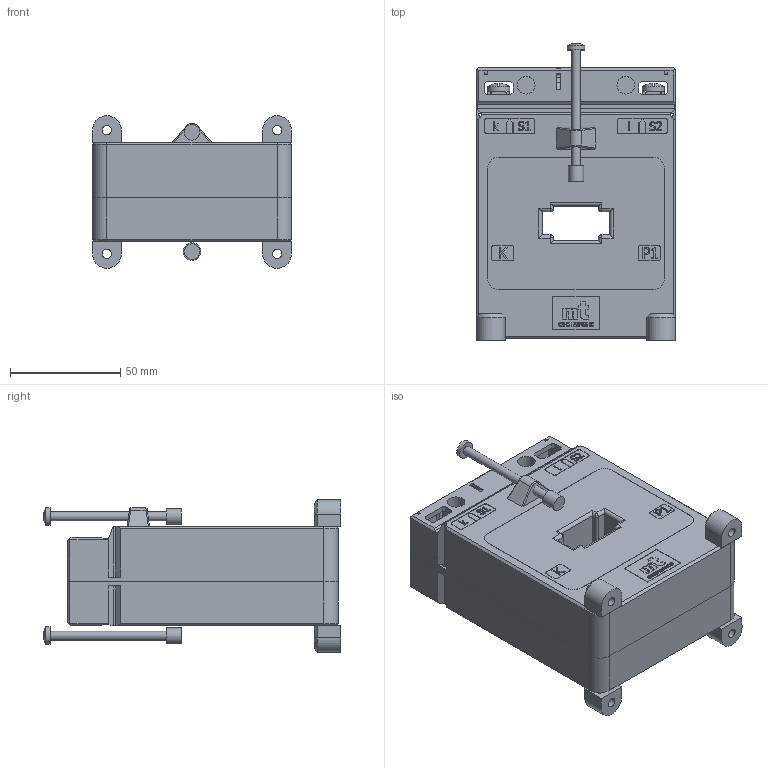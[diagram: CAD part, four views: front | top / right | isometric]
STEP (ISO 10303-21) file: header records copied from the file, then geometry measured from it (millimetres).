
FILE_DESCRIPTION(/* description */ (''),/* implementation_level */ '2;1');
FILE_NAME(/* name */ 'CLB 3.92.step',/* time_stamp */ '2024-10-12T13:20:43+02:00',/* author */ ('peter'),/* organization */ (''),/* preprocessor_version */ 'ST-DEVELOPER v20',/* originating_system */ 'Autodesk Inventor 2025',/* authorisation */ '');
FILE_SCHEMA (('AUTOMOTIVE_DESIGN { 1 0 10303 214 3 1 1 }'));
Length unit declared in the file: millimetre
Products named in the file (11): Current transformer CLB 3.92; Front plastic case CLB 3.92; Back plastic case CLB 3.92; Tape label CLB 3.92; Secondary terminal 28 CLB; Secondary terminal cover 37B CLB; Plastic mounting foot; Rivet 20; Insulating cap; Screw M5x8; Screw 4x60
Assembly tree (23 placements, depth 2):
  Current transformer CLB 3.92
    Front plastic case CLB 3.92
    Back plastic case CLB 3.92
    Tape label CLB 3.92
    Secondary terminal 28 CLB  x2
    Secondary terminal cover 37B CLB  x2
    Plastic mounting foot  x4
    Rivet 20  x4
    Insulating cap  x2
    Screw M5x8  x4
    Screw 4x60  x2
Bounding box: 90 x 134.47 x 69 mm (x, y, z)
Volume: 452749.5 mm3; surface area: 89250.3 mm2
Topology: 23 solids, 27 shells, 1813 faces, 4850 edges, 3180 vertices
Faces by surface type: plane 1126, bspline 403, cylinder 228, cone 38, sphere 10, torus 8
Full cylindrical faces by diameter (mm): 1.5 x4, 2.4 x4, 2.95 x2, 3 x5, 3.5 x2, 4 x8, 4.1 x4, 4.134 x4, 4.2 x4, 4.5 x4, 5 x8, 7 x2, 8 x18, 9 x4, 10 x4
Entity records: 50454 total; most frequent: CARTESIAN_POINT 13893, ORIENTED_EDGE 8240, DIRECTION 5941, EDGE_CURVE 4120, LINE 2951, VECTOR 2951, VERTEX_POINT 2711, EDGE_LOOP 1663
